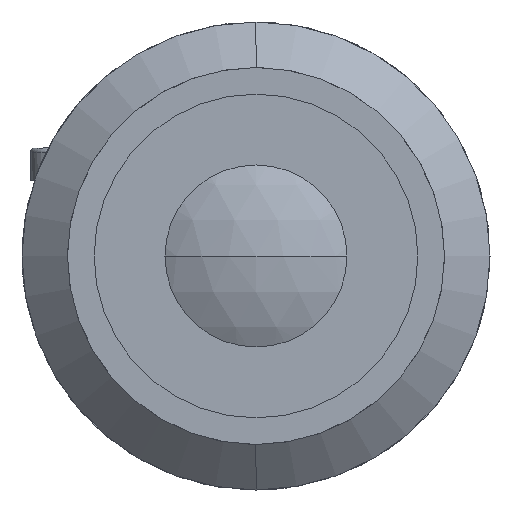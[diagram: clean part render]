
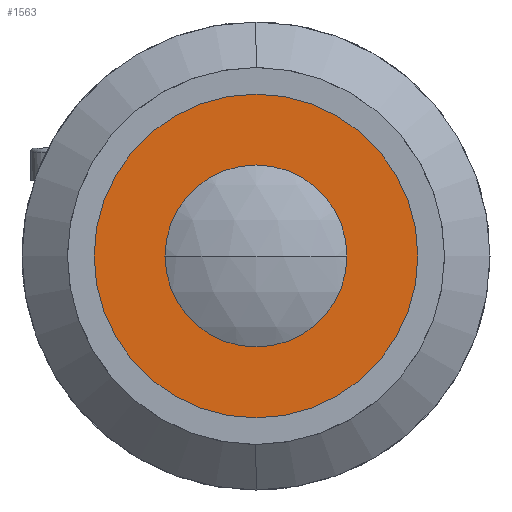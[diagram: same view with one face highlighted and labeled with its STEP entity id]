
A CAD part, left-side view. The second image highlights one B-rep face of the part: STEP entity #1563.
In plain terms, the highlighted planar face has unit normal (-1, 0, 0).
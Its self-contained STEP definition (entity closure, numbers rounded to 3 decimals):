
#19 = FACE_BOUND ( 'NONE', #1943, .T. ) ;
#67 = CIRCLE ( 'NONE', #1310, 13.5 ) ;
#169 = CARTESIAN_POINT ( 'NONE',  ( 3.8, 0., 0. ) ) ;
#228 = DIRECTION ( 'NONE',  ( -1., 0., 0. ) ) ;
#301 = VERTEX_POINT ( 'NONE', #1120 ) ;
#463 = DIRECTION ( 'NONE',  ( 0., 0., 1. ) ) ;
#512 = CARTESIAN_POINT ( 'NONE',  ( 3.8, 0., -13.5 ) ) ;
#601 = VERTEX_POINT ( 'NONE', #1553 ) ;
#646 = ORIENTED_EDGE ( 'NONE', *, *, #2694, .F. ) ;
#721 = CIRCLE ( 'NONE', #3417, 7. ) ;
#752 = EDGE_CURVE ( 'NONE', #301, #1362, #67, .T. ) ;
#818 = CIRCLE ( 'NONE', #2029, 13.5 ) ;
#851 = DIRECTION ( 'NONE',  ( -1., 0., 0. ) ) ;
#911 = CARTESIAN_POINT ( 'NONE',  ( 3.8, 0., -7. ) ) ;
#991 = CIRCLE ( 'NONE', #1127, 7. ) ;
#1120 = CARTESIAN_POINT ( 'NONE',  ( 3.8, 0., 13.5 ) ) ;
#1127 = AXIS2_PLACEMENT_3D ( 'NONE', #1361, #3351, #1649 ) ;
#1157 = ORIENTED_EDGE ( 'NONE', *, *, #752, .T. ) ;
#1310 = AXIS2_PLACEMENT_3D ( 'NONE', #1947, #228, #2228 ) ;
#1319 = ORIENTED_EDGE ( 'NONE', *, *, #2221, .T. ) ;
#1361 = CARTESIAN_POINT ( 'NONE',  ( 3.8, 0., 0. ) ) ;
#1362 = VERTEX_POINT ( 'NONE', #512 ) ;
#1415 = ORIENTED_EDGE ( 'NONE', *, *, #2815, .F. ) ;
#1550 = FACE_OUTER_BOUND ( 'NONE', #1685, .T. ) ;
#1553 = CARTESIAN_POINT ( 'NONE',  ( 3.8, 0., 7. ) ) ;
#1563 = ADVANCED_FACE ( 'NONE', ( #19, #1550 ), #2759, .F. ) ;
#1649 = DIRECTION ( 'NONE',  ( 0., 0., 1. ) ) ;
#1685 = EDGE_LOOP ( 'NONE', ( #1157, #1319 ) ) ;
#1820 = VERTEX_POINT ( 'NONE', #911 ) ;
#1905 = CARTESIAN_POINT ( 'NONE',  ( 3.8, 13.5, 0. ) ) ;
#1919 = DIRECTION ( 'NONE',  ( 0., 0., -1. ) ) ;
#1943 = EDGE_LOOP ( 'NONE', ( #646, #1415 ) ) ;
#1947 = CARTESIAN_POINT ( 'NONE',  ( 3.8, 0., 0. ) ) ;
#2029 = AXIS2_PLACEMENT_3D ( 'NONE', #169, #2172, #463 ) ;
#2172 = DIRECTION ( 'NONE',  ( -1., 0., 0. ) ) ;
#2221 = EDGE_CURVE ( 'NONE', #1362, #301, #818, .T. ) ;
#2228 = DIRECTION ( 'NONE',  ( 0., 0., 1. ) ) ;
#2538 = CARTESIAN_POINT ( 'NONE',  ( 3.8, 0., 0. ) ) ;
#2694 = EDGE_CURVE ( 'NONE', #601, #1820, #991, .T. ) ;
#2759 = PLANE ( 'NONE',  #2994 ) ;
#2815 = EDGE_CURVE ( 'NONE', #1820, #601, #721, .T. ) ;
#2830 = DIRECTION ( 'NONE',  ( 0., 0., 1. ) ) ;
#2994 = AXIS2_PLACEMENT_3D ( 'NONE', #1905, #3641, #1919 ) ;
#3351 = DIRECTION ( 'NONE',  ( -1., 0., 0. ) ) ;
#3417 = AXIS2_PLACEMENT_3D ( 'NONE', #2538, #851, #2830 ) ;
#3641 = DIRECTION ( 'NONE',  ( 1., 0., 0. ) ) ;
